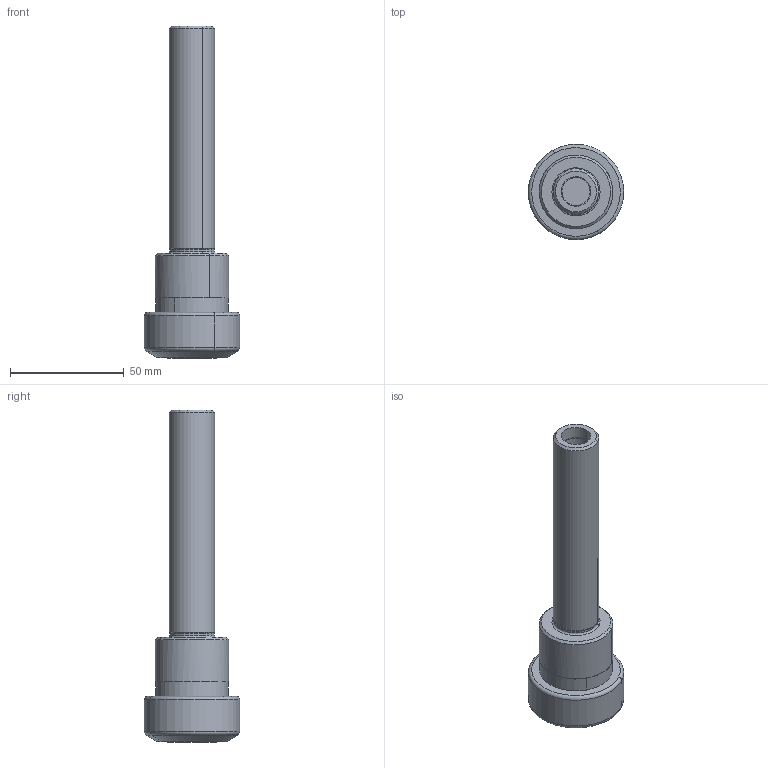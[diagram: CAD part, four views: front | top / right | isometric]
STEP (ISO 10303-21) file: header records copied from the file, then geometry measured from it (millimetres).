
FILE_DESCRIPTION(('CATIA V5 STEP','CAx-IF Rec.Pracs.--- Model Styling and Organization---1.2---2011-12-15'),'2;1');
FILE_NAME('\\nas01\drv1\utils\eitdev\rte\eit\transmagicconvert\db\out\635959703714057220\4508012 LM.stp','2016-04-11T08:19:45+00:00',('none'),('none'),'CATIA Version 5 Release 21 SP 5 (IN-10)','CATIA V5 STEP AP214','none');
FILE_SCHEMA(('AUTOMOTIVE_DESIGN { 1 0 10303 214 1 1 1 1 }'));
Length unit declared in the file: millimetre
Products named in the file (1): ST 20X100 ER25
Bounding box: 41.99 x 41.99 x 146.04 mm (x, y, z)
Volume: 61510.9 mm3; surface area: 17213.9 mm2
Topology: 1 solids, 1 shells, 53 faces, 112 edges, 66 vertices
Faces by surface type: cylinder 20, cone 14, torus 10, plane 7, extrusion 2
Entity records: 1471 total; most frequent: CARTESIAN_POINT 416, ORIENTED_EDGE 224, DIRECTION 170, EDGE_CURVE 112, AXIS2_PLACEMENT_3D 101, CIRCLE 68, VERTEX_POINT 66, EDGE_LOOP 58
